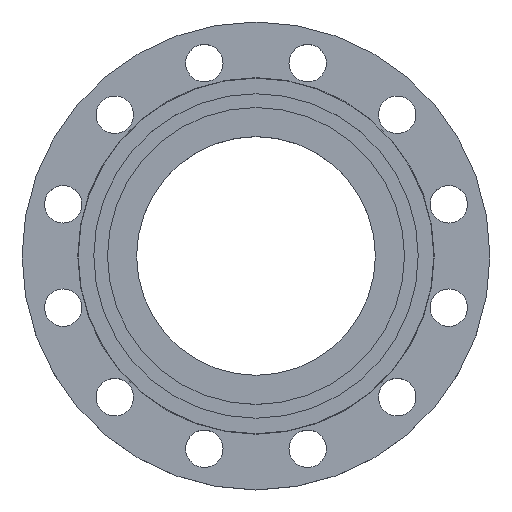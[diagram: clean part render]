
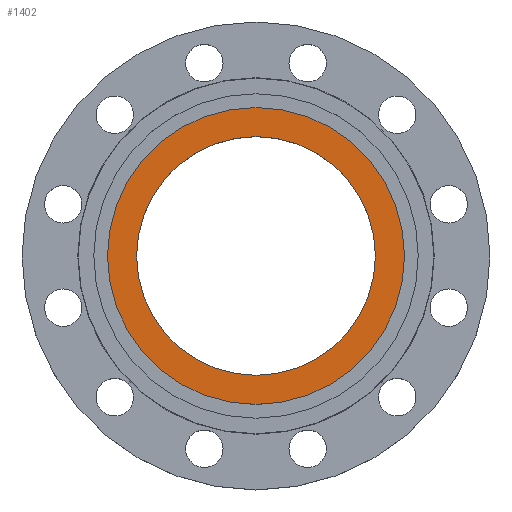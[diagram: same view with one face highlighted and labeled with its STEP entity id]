
A CAD part, top view. The second image highlights one B-rep face of the part: STEP entity #1402.
In plain terms, the highlighted planar face has unit normal (0, 0, 1).
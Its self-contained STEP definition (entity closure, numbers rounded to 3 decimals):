
#29 = DIRECTION ( 'NONE',  ( 0., 0., -1. ) ) ;
#30 = CARTESIAN_POINT ( 'NONE',  ( 0., 0., 0. ) ) ;
#32 = DIRECTION ( 'NONE',  ( 1., 0., 0. ) ) ;
#34 = PLANE ( 'NONE',  #916 ) ;
#37 = DIRECTION ( 'NONE',  ( 0., 0., 1. ) ) ;
#38 = CIRCLE ( 'NONE', #41, 119. ) ;
#39 = DIRECTION ( 'NONE',  ( 1., 0., 0. ) ) ;
#41 = AXIS2_PLACEMENT_3D ( 'NONE', #30, #29, #223 ) ;
#46 = CARTESIAN_POINT ( 'NONE',  ( 0., 0., 0. ) ) ;
#104 = CIRCLE ( 'NONE', #125, 95.67 ) ;
#114 = CARTESIAN_POINT ( 'NONE',  ( -95.67, 0., 0. ) ) ;
#125 = AXIS2_PLACEMENT_3D ( 'NONE', #226, #225, #32 ) ;
#223 = DIRECTION ( 'NONE',  ( -1., 0., 0. ) ) ;
#224 = CIRCLE ( 'NONE', #235, 119. ) ;
#225 = DIRECTION ( 'NONE',  ( 0., 0., 1. ) ) ;
#226 = CARTESIAN_POINT ( 'NONE',  ( 0., 0., 0. ) ) ;
#234 = DIRECTION ( 'NONE',  ( -1., 0., 0. ) ) ;
#235 = AXIS2_PLACEMENT_3D ( 'NONE', #237, #236, #234 ) ;
#236 = DIRECTION ( 'NONE',  ( 0., 0., -1. ) ) ;
#237 = CARTESIAN_POINT ( 'NONE',  ( 0., 0., 0. ) ) ;
#353 = CARTESIAN_POINT ( 'NONE',  ( 119., 0., 0. ) ) ;
#800 = CARTESIAN_POINT ( 'NONE',  ( 0., 0., 0. ) ) ;
#835 = VERTEX_POINT ( 'NONE', #353 ) ;
#916 = AXIS2_PLACEMENT_3D ( 'NONE', #800, #1098, #1375 ) ;
#941 = FACE_BOUND ( 'NONE', #1437, .T. ) ;
#955 = EDGE_CURVE ( 'NONE', #1331, #835, #224, .T. ) ;
#958 = EDGE_CURVE ( 'NONE', #1133, #1342, #104, .T. ) ;
#960 = EDGE_CURVE ( 'NONE', #835, #1331, #38, .T. ) ;
#1053 = AXIS2_PLACEMENT_3D ( 'NONE', #46, #37, #39 ) ;
#1057 = CIRCLE ( 'NONE', #1053, 95.67 ) ;
#1098 = DIRECTION ( 'NONE',  ( 0., 0., 1. ) ) ;
#1133 = VERTEX_POINT ( 'NONE', #114 ) ;
#1192 = FACE_OUTER_BOUND ( 'NONE', #1427, .T. ) ;
#1224 = ORIENTED_EDGE ( 'NONE', *, *, #1271, .F. ) ;
#1225 = ORIENTED_EDGE ( 'NONE', *, *, #958, .F. ) ;
#1227 = ORIENTED_EDGE ( 'NONE', *, *, #955, .F. ) ;
#1228 = ORIENTED_EDGE ( 'NONE', *, *, #960, .F. ) ;
#1271 = EDGE_CURVE ( 'NONE', #1342, #1133, #1057, .T. ) ;
#1314 = CARTESIAN_POINT ( 'NONE',  ( 95.67, 0., 0. ) ) ;
#1331 = VERTEX_POINT ( 'NONE', #1458 ) ;
#1342 = VERTEX_POINT ( 'NONE', #1314 ) ;
#1375 = DIRECTION ( 'NONE',  ( 1., 0., 0. ) ) ;
#1402 = ADVANCED_FACE ( 'NONE', ( #941, #1192 ), #34, .T. ) ;
#1427 = EDGE_LOOP ( 'NONE', ( #1227, #1228 ) ) ;
#1437 = EDGE_LOOP ( 'NONE', ( #1224, #1225 ) ) ;
#1458 = CARTESIAN_POINT ( 'NONE',  ( -119., 0., 0. ) ) ;
